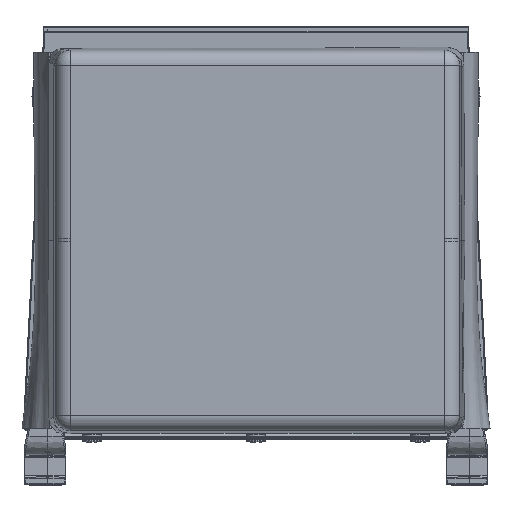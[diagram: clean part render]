
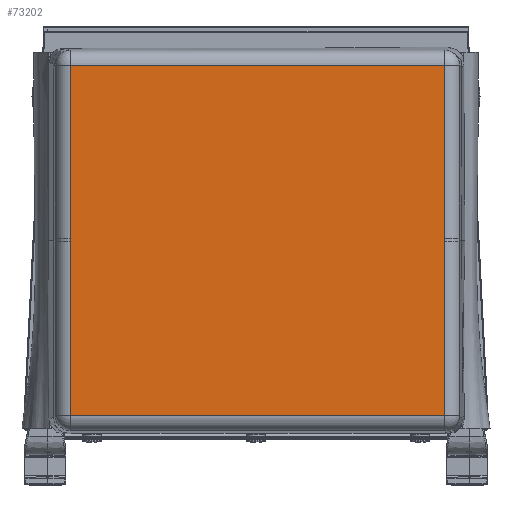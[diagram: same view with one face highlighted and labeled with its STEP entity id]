
A CAD part, front view. The second image highlights one B-rep face of the part: STEP entity #73202.
In plain terms, the highlighted planar face has unit normal (0, -1, 0).
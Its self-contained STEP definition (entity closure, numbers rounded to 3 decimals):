
#11217=DIRECTION('',(0.,0.,-1.));
#11218=VECTOR('',#11217,255.852);
#11219=CARTESIAN_POINT('',(-135.594,0.,127.875));
#11220=LINE('',#11219,#11218);
#13582=DIRECTION('',(1.,0.,0.));
#13583=VECTOR('',#13582,273.252);
#13584=CARTESIAN_POINT('',(-135.594,0.,-127.977));
#13585=LINE('',#13584,#13583);
#13586=DIRECTION('',(-1.,0.,0.));
#13587=VECTOR('',#13586,273.252);
#13588=CARTESIAN_POINT('',(137.658,0.,127.875));
#13589=LINE('',#13588,#13587);
#13594=DIRECTION('',(0.,0.,1.));
#13595=VECTOR('',#13594,255.852);
#13596=CARTESIAN_POINT('',(137.658,0.,-127.977));
#13597=LINE('',#13596,#13595);
#37903=CARTESIAN_POINT('',(-135.594,0.,-127.977));
#37904=CARTESIAN_POINT('',(137.658,0.,-127.977));
#37905=VERTEX_POINT('',#37903);
#37906=VERTEX_POINT('',#37904);
#37911=CARTESIAN_POINT('',(137.658,0.,127.875));
#37912=CARTESIAN_POINT('',(-135.594,0.,127.875));
#37913=VERTEX_POINT('',#37911);
#37914=VERTEX_POINT('',#37912);
#73190=CARTESIAN_POINT('',(0.,0.,0.));
#73191=DIRECTION('',(0.,1.,0.));
#73192=DIRECTION('',(1.,0.,0.));
#73193=AXIS2_PLACEMENT_3D('',#73190,#73191,#73192);
#73194=PLANE('',#73193);
#73195=ORIENTED_EDGE('',*,*,#73181,.F.);
#73196=ORIENTED_EDGE('',*,*,#68749,.F.);
#73197=ORIENTED_EDGE('',*,*,#68779,.F.);
#73199=ORIENTED_EDGE('',*,*,#73198,.F.);
#73200=EDGE_LOOP('',(#73195,#73196,#73197,#73199));
#73201=FACE_OUTER_BOUND('',#73200,.F.);
#68749=EDGE_CURVE('',#37914,#37905,#11220,.T.);
#68779=EDGE_CURVE('',#37913,#37914,#13589,.T.);
#73181=EDGE_CURVE('',#37905,#37906,#13585,.T.);
#73198=EDGE_CURVE('',#37906,#37913,#13597,.T.);
#73202=ADVANCED_FACE('',(#73201),#73194,.F.);
